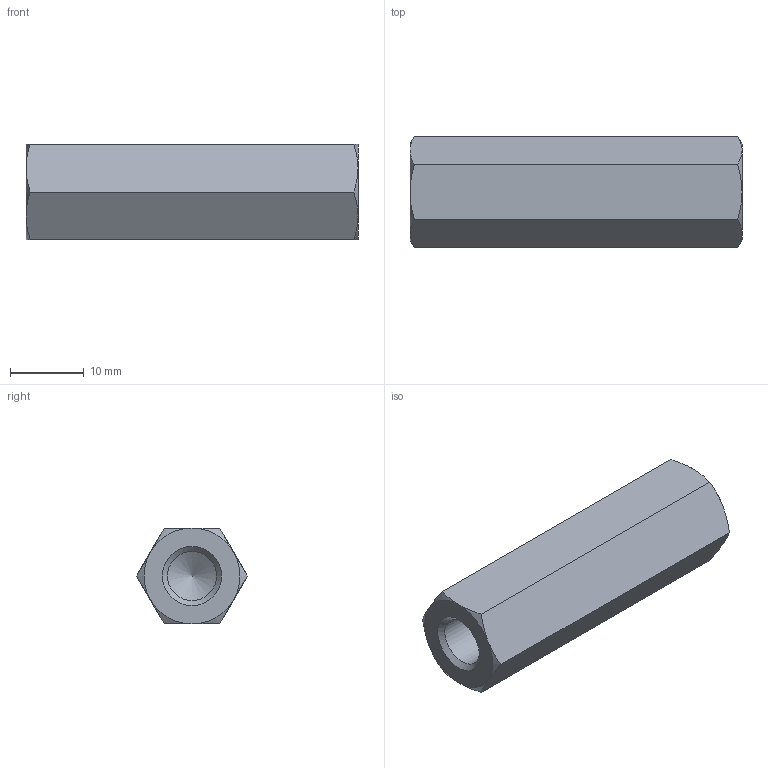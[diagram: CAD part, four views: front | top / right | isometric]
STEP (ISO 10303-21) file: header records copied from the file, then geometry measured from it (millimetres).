
FILE_DESCRIPTION( ( 'STEP AP203' ), '1' );
FILE_NAME( 'C:/Temp/Ganter_Step_05_03_2020/data/3_2/gn6220/gn6220_ni/Stainless Steel-Spacer GN 6220-NI-M8-45-A.stp', '2020-03-13T05:43:06', ( 'License CC BY-ND 4.0' ), ( 'CADENAS' ), ' ', 'PARTsolutions', ' ' );
FILE_SCHEMA( ( 'CONFIG_CONTROL_DESIGN' ) );
Length unit declared in the file: millimetre
Products named in the file (1): _Stainless Steel-Spacer GN 6220-NI-M8-45-A
Bounding box: 45 x 15.01 x 13 mm (x, y, z)
Volume: 5123.1 mm3; surface area: 3145.3 mm2
Topology: 1 solids, 1 shells, 26 faces, 57 edges, 33 vertices
Faces by surface type: cone 16, plane 8, cylinder 2
Full cylindrical faces by diameter (mm): 6.647 x2
Entity records: 782 total; most frequent: CARTESIAN_POINT 243, DIRECTION 96, ORIENTED_EDGE 96, EDGE_CURVE 48, AXIS2_PLACEMENT_3D 45, EDGE_LOOP 32, VERTEX_POINT 32, FACE_OUTER_BOUND 28
